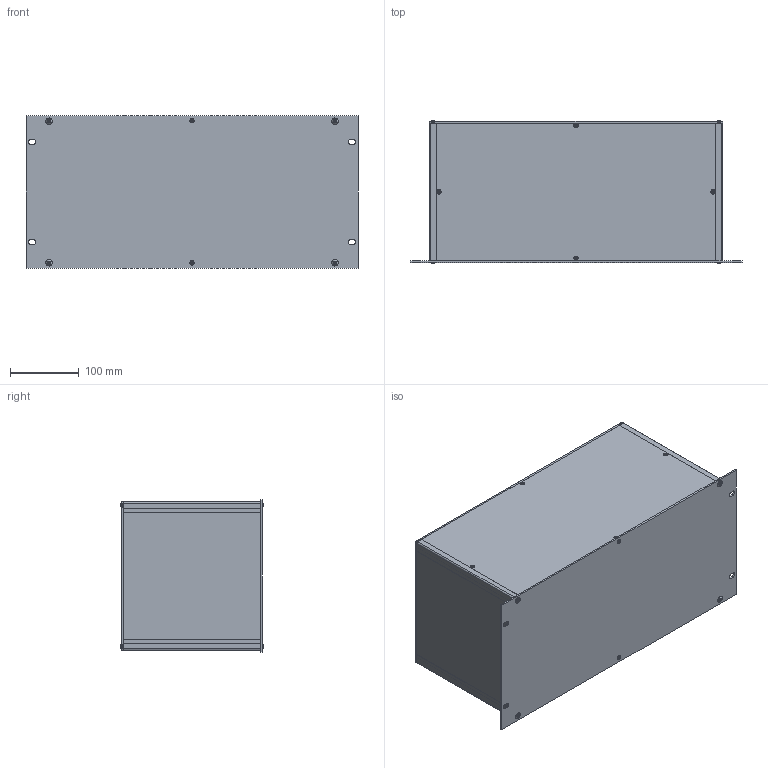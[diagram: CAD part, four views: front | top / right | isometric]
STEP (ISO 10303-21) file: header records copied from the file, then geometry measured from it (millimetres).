
FILE_DESCRIPTION(/* description */ (''),/* implementation_level */ '2;1');
FILE_NAME(/* name */ '//diskstation/Kunden/Gehäuse/Gehäuse/5HE/step/19 Zoll 5HE Rack Gehäuse Tiefe-200.step',/* time_stamp */ '2022-02-17T16:47:45+01:00',/* author */ (''),/* organization */ (''),/* preprocessor_version */ 'ST-DEVELOPER v18.1',/* originating_system */ 'Autodesk Translation Framework v10.10.0.1391',/* authorisation */ '');
FILE_SCHEMA (('AUTOMOTIVE_DESIGN { 1 0 10303 214 3 1 1 }'));
Length unit declared in the file: millimetre
Products named in the file (28): 5HE Gehäuse mit parametern; Gehäuse; Gehäuseprofil 1 unten links; Gehäuseprofil 2 oben rechts; Gehäuseprofil 1 unten rechts; Gehäuseprofil 2 oben links; Rückplatte; Deckel; Seitenteil links; Seitenteil rechts; Bodenplatte; Montageklotz Front/Deckel; Montageklotz Front/Boden; Montageklotz Rück/Deckel; Montageklotz Rück/Boden; Gewindestreifen; Frontplatte; Schrauben M5; Schraube Front; Schraube Front (1); Schraube Front (2); Schraube Front (3); Schraube Rück (1); Schraube Rück; Schraube Rück (2); Schraube Rück (3); Schrauben M3; HI_Senkschraube DIN 965 A v2 M3x5 24677.030.005(High)
Assembly tree (37 placements, depth 3):
  5HE Gehäuse mit parametern
    Gehäuse
      Gehäuseprofil 1 unten links
      Gehäuseprofil 2 oben rechts
      Gehäuseprofil 1 unten rechts
      Gehäuseprofil 2 oben links
      Rückplatte
      Deckel
      Seitenteil links
      Seitenteil rechts
      Bodenplatte
      Montageklotz Front/Deckel
      Montageklotz Front/Boden
      Montageklotz Rück/Deckel
      Montageklotz Rück/Boden
      Gewindestreifen  x2
    Frontplatte
    Schrauben M5
      Schraube Front
      Schraube Front (1)
      Schraube Front (2)
      Schraube Front (3)
      Schraube Rück (1)
      Schraube Rück
      Schraube Rück (2)
      Schraube Rück (3)
    Schrauben M3
      HI_Senkschraube DIN 965 A v2 M3x5 24677.030.005(High)  x10
Bounding box: 483 x 208.2 x 221.4 mm (x, y, z)
Volume: 1141866.1 mm3; surface area: 982297.4 mm2
Topology: 34 solids, 34 shells, 834 faces, 2016 edges, 1250 vertices
Faces by surface type: plane 342, cylinder 312, cone 164, torus 8, bspline 8
Full cylindrical faces by diameter (mm): 2.529 x70, 3 x10, 3.2 x10, 4.234 x40, 5 x8, 5.2 x4, 5.3 x8, 5.6 x10, 9.5 x8
Entity records: 16455 total; most frequent: CARTESIAN_POINT 3018, DIRECTION 2750, ORIENTED_EDGE 2430, EDGE_CURVE 1215, AXIS2_PLACEMENT_3D 1030, VERTEX_POINT 758, EDGE_LOOP 701, LINE 690
